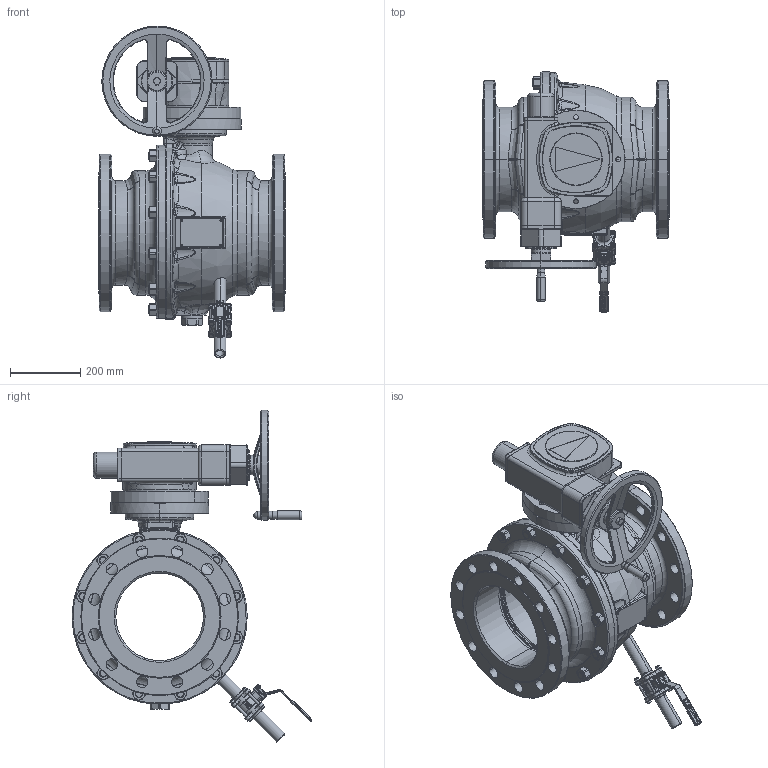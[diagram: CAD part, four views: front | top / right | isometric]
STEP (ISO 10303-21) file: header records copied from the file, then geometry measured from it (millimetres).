
FILE_DESCRIPTION((''),'2;1');
FILE_NAME('250_ASM','2017-01-17T',('schwaba'),('RAND'),'PRO/ENGINEER BY PARAMETRIC TECHNOLOGY CORPORATION, 2016100','PRO/ENGINEER BY PARAMETRIC TECHNOLOGY CORPORATION, 2016100','');
FILE_SCHEMA(('CONFIG_CONTROL_DESIGN'));
Products named in the file (3): KHI_250_PN40_FR_WE_ENTL_O_IT; GS100_F16_AHR315_ZWPL_DN300; 250_ASM
Assembly tree (2 placements, depth 2):
  250_ASM
    KHI_250_PN40_FR_WE_ENTL_O_IT
    GS100_F16_AHR315_ZWPL_DN300
Bounding box: 533 x 684.71 x 947.74 mm (x, y, z)
Volume: 39373863.9 mm3; surface area: 4119095.3 mm2
Topology: 3 solids, 10 shells, 4361 faces, 10820 edges, 6610 vertices
Faces by surface type: plane 1715, cylinder 949, bspline 620, cone 536, torus 472, sphere 69
Entity records: 257987 total; most frequent: CARTESIAN_POINT 158364, ORIENTED_EDGE 21536, DIRECTION 19840, EDGE_CURVE 10768, AXIS2_PLACEMENT_3D 7389, VERTEX_POINT 6610, VECTOR 5062, LINE 5062
